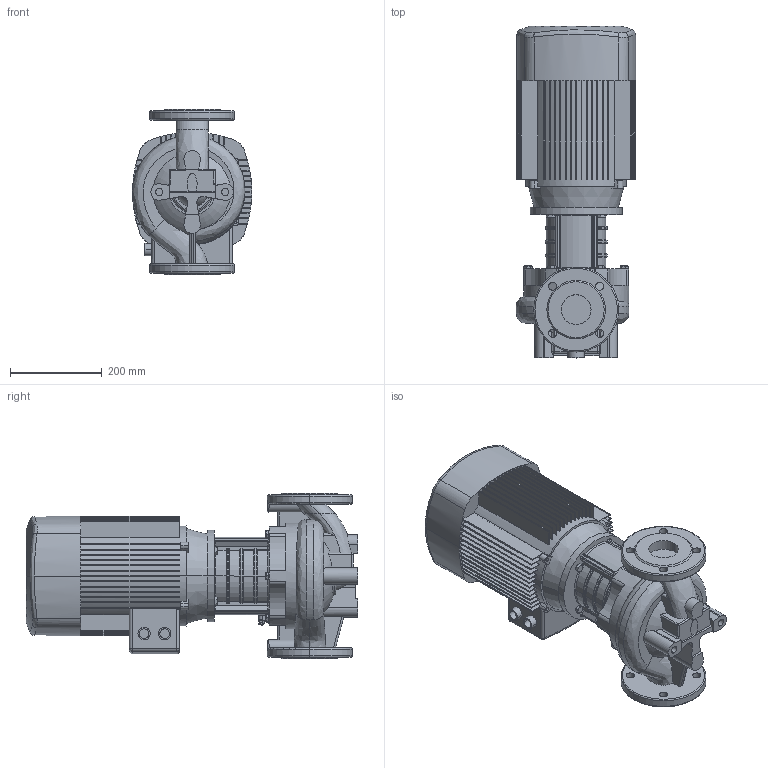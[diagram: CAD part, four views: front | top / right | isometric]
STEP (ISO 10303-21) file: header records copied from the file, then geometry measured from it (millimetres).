
FILE_DESCRIPTION (( 'STEP AP203' ), '1' );
FILE_NAME ('TD65-30G／2.STEP', '2026-09-07T02:24:58', ( '' ), ( '' ), 'SwSTEP 2.0', 'SolidWorks 2020', '' );
FILE_SCHEMA (( 'CONFIG_CONTROL_DESIGN' ));
Length unit declared in the file: millimetre
Products named in the file (1): TD65-30Gㄞ2
Bounding box: 260.82 x 724 x 360 mm (x, y, z)
Volume: 28739100.1 mm3; surface area: 1414161.9 mm2
Topology: 1 solids, 15 shells, 1295 faces, 3387 edges, 2107 vertices
Faces by surface type: plane 633, cylinder 337, torus 127, cone 105, sphere 50, bspline 43
Entity records: 50947 total; most frequent: CARTESIAN_POINT 19320, ORIENTED_EDGE 6690, DIRECTION 6676, EDGE_CURVE 3345, AXIS2_PLACEMENT_3D 2533, VERTEX_POINT 2099, VECTOR 1610, LINE 1610
